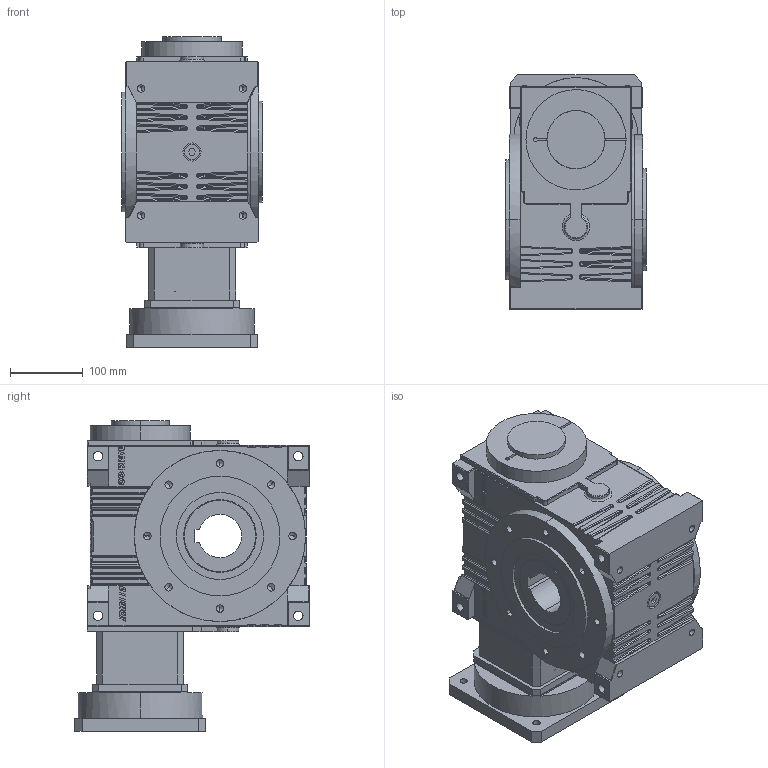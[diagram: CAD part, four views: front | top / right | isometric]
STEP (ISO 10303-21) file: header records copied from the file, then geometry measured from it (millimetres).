
FILE_DESCRIPTION (( 'STEP AP214' ), '1' );
FILE_NAME ('JDLB110-(5~90)-CR-35-114.3-200-M12.STEP', '2022-04-02T10:59:58', ( '' ), ( '' ), 'SwSTEP 2.0', 'SolidWorks 2018', '' );
FILE_SCHEMA (( 'AUTOMOTIVE_DESIGN' ));
Length unit declared in the file: millimetre
Products named in the file (6): JDLB110-ST130输入法兰; 联轴器BD68-73.3-32-35锁紧; JDLB110-CR諾陑粣朴60; JDLB110-CR眊极; ST180-114.3-200-M12侜督楊擘諉諳; JDLB110-(5~90)-CR-35-114.3-200-M12
Assembly tree (5 placements, depth 2):
  JDLB110-(5~90)-CR-35-114.3-200-M12
    JDLB110-CR眊极
    JDLB110-CR諾陑粣朴60
    JDLB110-ST130输入法兰
    ST180-114.3-200-M12侜督楊擘諉諳
    联轴器BD68-73.3-32-35锁紧
Bounding box: 194 x 323 x 427.74 mm (x, y, z)
Volume: 14790065.1 mm3; surface area: 897722.9 mm2
Topology: 15 solids, 15 shells, 1812 faces, 4574 edges, 2792 vertices
Faces by surface type: plane 785, cylinder 632, bspline 124, torus 100, cone 89, sphere 82
Entity records: 65804 total; most frequent: CARTESIAN_POINT 19038, ORIENTED_EDGE 8868, DIRECTION 8581, EDGE_CURVE 4434, AXIS2_PLACEMENT_3D 3062, VERTEX_POINT 2792, VECTOR 2457, LINE 2457
